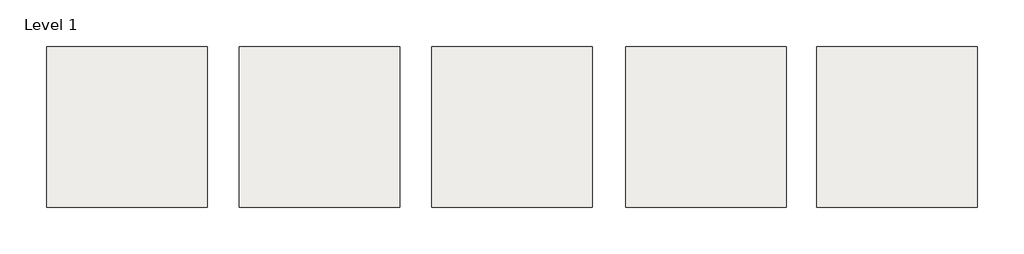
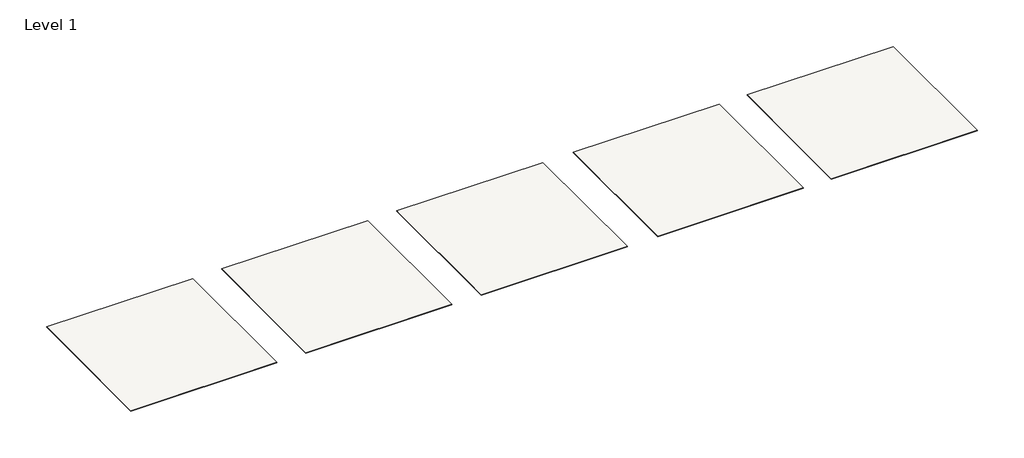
# One storey: 5 slabs.
"""IFC4 building model written with IfcOpenShell, lengths in millimetres."""

import ifcopenshell
import ifcopenshell.guid

model = None  # the IFC model being written
_history = None  # IfcOwnerHistory: only IFC2X3 demands one
_inside = {}  # id of a spatial element -> (the spatial element, [elements in it])
_under = {}  # id of a project, library or spatial element -> (it, [spatial elements below it])
_declared = {}  # id of a project -> (the project, [libraries it declares])
_typed = {}  # id of a type object -> (the type object, [elements of that type])
_made_of = {}  # id of a material, layer set ... -> (it, [elements and type objects made of it])


def new_model(schema):
    """Start an empty IFC model of exactly this schema.

    Asked for "IFC4X3", IfcOpenShell would pick the latest addendum, in which some entities
    have other attributes; the version numbers below select the first issue.
    IFC2X3 requires an IfcOwnerHistory on every rooted entity: one is made here for all.
    """
    global model, _history
    if schema == "IFC4X3":
        model = ifcopenshell.file(schema_version=(4, 3, 0, 0))
    else:
        model = ifcopenshell.file(schema=schema)
    _inside.clear()
    _under.clear()
    _declared.clear()
    _typed.clear()
    _made_of.clear()
    _history = None
    if model.schema == "IFC2X3":
        org = make("IfcOrganization", Name="unknown")
        user = make(
            "IfcPersonAndOrganization",
            ThePerson=make("IfcPerson", FamilyName="unknown"),
            TheOrganization=org,
        )
        app = make(
            "IfcApplication",
            ApplicationDeveloper=org,
            Version="unknown",
            ApplicationFullName="unknown",
            ApplicationIdentifier="unknown",
        )
        _history = make(
            "IfcOwnerHistory",
            OwningUser=user,
            OwningApplication=app,
            ChangeAction="ADDED",
            CreationDate=0,
        )
    return model


def make(cls, **values):
    """One entity of the class cls with the attributes given. An attribute that is None is left unset."""
    return model.create_entity(
        cls, **{name: value for name, value in values.items() if value is not None}
    )


def rooted(cls, **values):
    """An entity with a GlobalId (a new one), such as an element, a storey or a relation."""
    return make(cls, GlobalId=ifcopenshell.guid.new(), OwnerHistory=_history, **values)


def si_unit(unit_type, name, prefix=None):
    """IfcSIUnit, for example si_unit("LENGTHUNIT", "METRE", prefix="MILLI")."""
    return make("IfcSIUnit", UnitType=unit_type, Prefix=prefix, Name=name)


def assignment(units):
    """IfcUnitAssignment: the units of a project."""
    return None if units is None else make("IfcUnitAssignment", Units=units)


def point(xyz):
    """IfcCartesianPoint."""
    return None if xyz is None else make("IfcCartesianPoint", Coordinates=xyz)


def direction(xyz):
    """IfcDirection."""
    return None if xyz is None else make("IfcDirection", DirectionRatios=xyz)


def frame(location, z_axis=None, x_axis=None):
    """IfcAxis2Placement3D, a coordinate frame: its origin and axes. An axis left out is left unset."""
    return make(
        "IfcAxis2Placement3D",
        Location=point(location),
        Axis=direction(z_axis),
        RefDirection=direction(x_axis),
    )


def origin():
    """The frame at (0, 0, 0) with its axes left unset."""
    return frame((0.0, 0.0, 0.0))


def place(relative_to, where):
    """IfcLocalPlacement: puts the frame where relative to a parent placement (None: the world)."""
    return make(
        "IfcLocalPlacement", PlacementRelTo=relative_to, RelativePlacement=where
    )


def context(
    kind, dimensions, precision=None, world=None, true_north=None, identifier=None
):
    """IfcGeometricRepresentationContext, for example the 3D "Model" context."""
    return make(
        "IfcGeometricRepresentationContext",
        ContextIdentifier=identifier,
        ContextType=kind,
        CoordinateSpaceDimension=dimensions,
        Precision=precision,
        WorldCoordinateSystem=world,
        TrueNorth=true_north,
    )


def project(units=None, contexts=None):
    """IfcProject with its units and contexts."""
    return rooted(
        "IfcProject",
        Name="project",
        RepresentationContexts=contexts,
        UnitsInContext=assignment(units),
    )


def spatial(cls, under=None, at=None, **own):
    """A site, building, storey or space (cls), placed at a placement, below another one or the project."""
    s = rooted(cls, ObjectPlacement=at, **own)
    if under is not None:
        _under.setdefault(under.id(), (under, []))[1].append(s)
    return s


def polyline(points):
    """IfcPolyline through the points."""
    return make("IfcPolyline", Points=[point(p) for p in points])


def outline(outer, holes=None, kind="AREA"):
    """IfcArbitraryClosedProfileDef: a profile drawn as a closed curve; with holes, ...WithVoids."""
    if holes is None:
        return make("IfcArbitraryClosedProfileDef", ProfileType=kind, OuterCurve=outer)
    return make(
        "IfcArbitraryProfileDefWithVoids",
        ProfileType=kind,
        OuterCurve=outer,
        InnerCurves=holes,
    )


def extrude(swept, where, along, depth):
    """IfcExtrudedAreaSolid: the profile swept, set in the frame where, extruded along a direction by depth."""
    return make(
        "IfcExtrudedAreaSolid",
        SweptArea=swept,
        Position=where,
        ExtrudedDirection=direction(along),
        Depth=depth,
    )


def shape(context_of_items, identifier, shape_type, items):
    """IfcShapeRepresentation: the items that make up one representation, for example the "Body"."""
    return make(
        "IfcShapeRepresentation",
        ContextOfItems=context_of_items,
        RepresentationIdentifier=identifier,
        RepresentationType=shape_type,
        Items=items,
    )


def made_of(thing, what):
    """Note that an element or type object is made of a material, layer set ...; save() writes the relation."""
    if what is not None:
        _made_of.setdefault(what.id(), (what, []))[1].append(thing)
    return thing


def element(
    cls,
    number,
    at=None,
    inside=None,
    cuts=None,
    type_object=None,
    material=None,
    context=None,
    identifier="Body",
    shape_type=None,
    held_by="IfcProductDefinitionShape",
    body=None,
    shapes=None,
    **own,
):
    """One element of the class cls, such as IfcWall. Its Tag is "e" and its number.

    at: its placement. inside: the storey or other place that contains it. cuts: it is an
    opening in that element (IfcRelVoidsElement). A single representation is given by context,
    identifier, shape_type and body (its items); several are given by shapes. held_by: the class
    of the entity that holds the representations. save() writes the other relations.
    """
    e = rooted(cls, Tag="e%d" % number, ObjectPlacement=at, **own)
    if body is not None:
        shapes = [shape(context, identifier, shape_type, body)]
    if shapes is not None:
        e.Representation = make(held_by, Representations=shapes)
    if inside is not None:
        _inside.setdefault(inside.id(), (inside, []))[1].append(e)
    if cuts is not None:
        rooted(
            "IfcRelVoidsElement", RelatingBuildingElement=cuts, RelatedOpeningElement=e
        )
    if type_object is not None:
        _typed.setdefault(type_object.id(), (type_object, []))[1].append(e)
    return made_of(e, material)


def aggregate(whole, parts):
    """IfcRelAggregates: a whole, such as a stair, and the parts it consists of."""
    return rooted("IfcRelAggregates", RelatingObject=whole, RelatedObjects=parts)


def save(model, path):
    """Write the relations noted so far, then the file.

    IfcRelAggregates (storeys below a building ...), IfcRelContainedInSpatialStructure (elements
    in a storey), IfcRelDefinesByType, IfcRelAssociatesMaterial and IfcRelDeclares: one each for
    every whole, place, type object, material and project.
    """
    for whole, parts in _under.values():
        aggregate(whole, parts)
    for where, things in _inside.values():
        rooted(
            "IfcRelContainedInSpatialStructure",
            RelatedElements=things,
            RelatingStructure=where,
        )
    for kind, things in _typed.values():
        rooted("IfcRelDefinesByType", RelatedObjects=things, RelatingType=kind)
    for what, things in _made_of.values():
        rooted("IfcRelAssociatesMaterial", RelatedObjects=things, RelatingMaterial=what)
    for by, libraries in _declared.values():
        rooted("IfcRelDeclares", RelatingContext=by, RelatedDefinitions=libraries)
    model.write(path)


model = new_model("IFC4")

# Units and contexts
model_context = context("Model", 3, world=origin())
ifc_project = project(units=[si_unit("LENGTHUNIT", "METRE", prefix="MILLI")], contexts=[model_context])

# Site, building, storey
site = spatial("IfcSite", under=ifc_project)
building = spatial("IfcBuilding", under=site)
storey = spatial("IfcBuildingStorey", under=building, Name="Level 1", Elevation=0.0)

# Slabs
placement = place(None, origin())
element("IfcSlab", 1, ObjectType="Porcelain Tile - Crossville - Moonstruck - AV305 Apollo 12x24", at=placement, inside=storey, context=model_context, shape_type="SweptSolid", body=[
    extrude(outline(polyline([(-18105.062096, -788.5439007), (-18105.062096, -3836.5439007), (-21153.062096, -3836.5439007), (-21153.062096, -788.5439007), (-18105.062096, -788.5439007)])), frame((0.0, 0.0, -9.525), z_axis=(0.0, 0.0, 1.0), x_axis=(1.0, 0.0, 0.0)), (0.0, 0.0, 1.0), 9.525),
])
element("IfcSlab", 2, ObjectType="Porcelain Tile - Crossville - Moonstruck - AV304 Gemini 12x24", at=placement, inside=storey, context=model_context, shape_type="SweptSolid", body=[
    extrude(outline(polyline([(-14447.462096, -788.5439007), (-14447.462096, -3836.5439007), (-17495.462096, -3836.5439007), (-17495.462096, -788.5439007), (-14447.462096, -788.5439007)])), frame((0.0, 0.0, -9.525), z_axis=(0.0, 0.0, 1.0), x_axis=(1.0, 0.0, 0.0)), (0.0, 0.0, 1.0), 9.525),
])
element("IfcSlab", 3, ObjectType="Porcelain Tile - Crossville - Moonstruck - AV301 Juno 12x24", at=placement, inside=storey, context=model_context, shape_type="SweptSolid", body=[
    extrude(outline(polyline([(-10789.862096, -788.5439007), (-10789.862096, -3836.5439007), (-13837.862096, -3836.5439007), (-13837.862096, -788.5439007), (-10789.862096, -788.5439007)])), frame((0.0, 0.0, -9.525), z_axis=(0.0, 0.0, 1.0), x_axis=(1.0, 0.0, 0.0)), (0.0, 0.0, 1.0), 9.525),
])
element("IfcSlab", 4, ObjectType="Porcelain Tile - Crossville - Moonstruck - AV303 Kosmos 12x24", at=placement, inside=storey, context=model_context, shape_type="SweptSolid", body=[
    extrude(outline(polyline([(-7106.2136969, -786.3157896), (-7106.2136969, -3834.3157896), (-10154.2136969, -3834.3157896), (-10154.2136969, -786.3157896), (-7106.2136969, -786.3157896)])), frame((0.0, 0.0, -9.525), z_axis=(0.0, 0.0, 1.0), x_axis=(1.0, 0.0, 0.0)), (0.0, 0.0, 1.0), 9.525),
])
element("IfcSlab", 5, ObjectType="Porcelain Tile - Crossville - Moonstruck - AV302 Luna 12x24", at=placement, inside=storey, context=model_context, shape_type="SweptSolid", body=[
    extrude(outline(polyline([(-3474.662096, -788.5439007), (-3474.662096, -3836.5439007), (-6522.662096, -3836.5439007), (-6522.662096, -788.5439007), (-3474.662096, -788.5439007)])), frame((0.0, 0.0, -9.525), z_axis=(0.0, 0.0, 1.0), x_axis=(1.0, 0.0, 0.0)), (0.0, 0.0, 1.0), 9.525),
])

save(model, "model.ifc")
